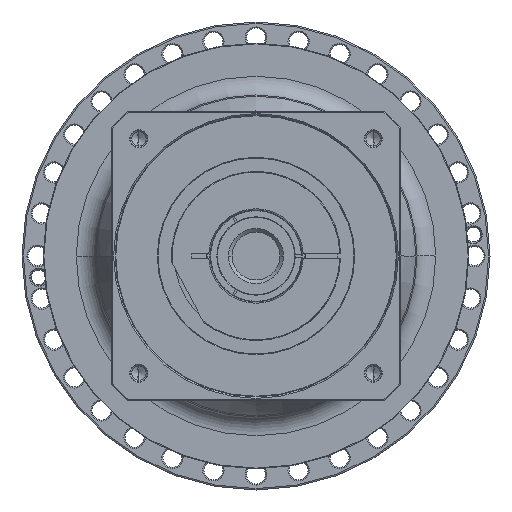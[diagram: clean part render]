
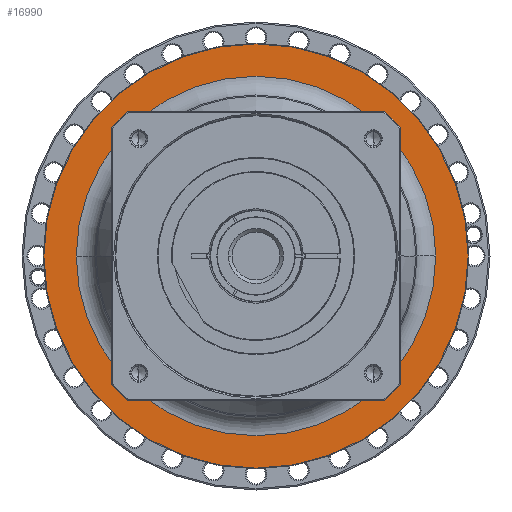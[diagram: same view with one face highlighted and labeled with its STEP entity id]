
A CAD part, left-side view. The second image highlights one B-rep face of the part: STEP entity #16990.
In plain terms, the highlighted planar face has unit normal (-1, 0, 0) as drawn and (1, 0, 0) by its records, which use the part's own axes.
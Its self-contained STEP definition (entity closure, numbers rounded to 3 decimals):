
#16397=CARTESIAN_POINT('',(-43.,0.,0.));
#16398=DIRECTION('',(-1.,0.,0.));
#16399=DIRECTION('',(0.,-1.,0.));
#16400=AXIS2_PLACEMENT_3D('',#16397,#16398,#16399);
#16402=CARTESIAN_POINT('',(-43.,0.,0.));
#16403=DIRECTION('',(-1.,0.,0.));
#16404=DIRECTION('',(0.,1.,0.));
#16405=AXIS2_PLACEMENT_3D('',#16402,#16403,#16404);
#16412=CARTESIAN_POINT('',(-43.,0.,0.));
#16413=DIRECTION('',(1.,0.,0.));
#16414=DIRECTION('',(0.,1.,0.));
#16415=AXIS2_PLACEMENT_3D('',#16412,#16413,#16414);
#16467=CARTESIAN_POINT('',(-43.,0.,0.));
#16468=DIRECTION('',(-1.,0.,0.));
#16469=DIRECTION('',(0.,1.,0.));
#16470=AXIS2_PLACEMENT_3D('',#16467,#16468,#16469);
#16541=CARTESIAN_POINT('',(-43.,-150.5,0.));
#16542=CARTESIAN_POINT('',(-43.,150.5,0.));
#16543=VERTEX_POINT('',#16541);
#16544=VERTEX_POINT('',#16542);
#16569=CARTESIAN_POINT('',(-43.,127.5,0.));
#16570=CARTESIAN_POINT('',(-43.,-127.5,0.));
#16571=VERTEX_POINT('',#16569);
#16572=VERTEX_POINT('',#16570);
#16975=CARTESIAN_POINT('',(-43.,0.,0.));
#16976=DIRECTION('',(1.,0.,0.));
#16977=DIRECTION('',(0.,-1.,0.));
#16978=AXIS2_PLACEMENT_3D('',#16975,#16976,#16977);
#16979=PLANE('',#16978);
#16980=ORIENTED_EDGE('',*,*,#16916,.T.);
#16981=ORIENTED_EDGE('',*,*,#16931,.T.);
#16982=EDGE_LOOP('',(#16980,#16981));
#16983=FACE_OUTER_BOUND('',#16982,.F.);
#16985=ORIENTED_EDGE('',*,*,#16984,.T.);
#16987=ORIENTED_EDGE('',*,*,#16986,.F.);
#16988=EDGE_LOOP('',(#16985,#16987));
#16989=FACE_BOUND('',#16988,.F.);
#16990=ADVANCED_FACE('',(#16983,#16989),#16979,.T.);
#16401=CIRCLE('',#16400,150.5);
#16406=CIRCLE('',#16405,150.5);
#16416=CIRCLE('',#16415,127.5);
#16471=CIRCLE('',#16470,127.5);
#16916=EDGE_CURVE('',#16543,#16544,#16401,.T.);
#16931=EDGE_CURVE('',#16544,#16543,#16406,.T.);
#16984=EDGE_CURVE('',#16571,#16572,#16416,.T.);
#16986=EDGE_CURVE('',#16571,#16572,#16471,.T.);
